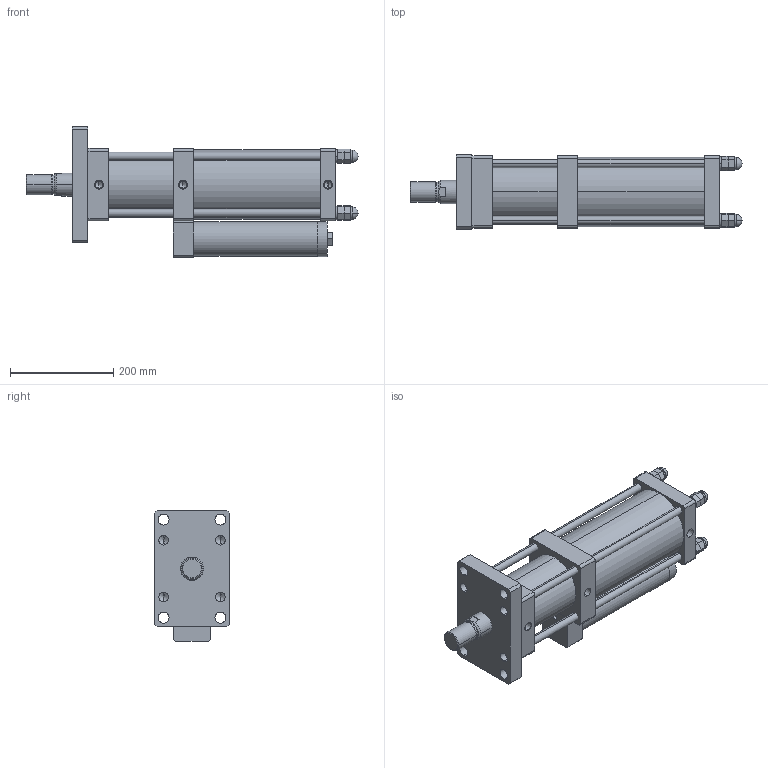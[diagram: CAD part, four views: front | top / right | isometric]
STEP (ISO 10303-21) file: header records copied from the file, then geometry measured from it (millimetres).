
FILE_DESCRIPTION (( 'STEP AP203' ), '1' );
FILE_NAME ('MPTC-100-10-13T.STEP', '2016-03-29T06:56:59', ( 'WIN' ), ( '' ), 'SwSTEP 2.0', 'SolidWorks 2014', '' );
FILE_SCHEMA (( 'CONFIG_CONTROL_DESIGN' ));
Length unit declared in the file: millimetre
Products named in the file (1): MPTC-100-10-13T
Bounding box: 643 x 145 x 253.5 mm (x, y, z)
Volume: 8667941 mm3; surface area: 668553.9 mm2
Topology: 13 solids, 13 shells, 399 faces, 980 edges, 555 vertices
Faces by surface type: plane 187, cylinder 80, torus 48, bspline 48, cone 36
Entity records: 12745 total; most frequent: CARTESIAN_POINT 3687, DIRECTION 1934, ORIENTED_EDGE 1812, EDGE_CURVE 906, AXIS2_PLACEMENT_3D 726, VERTEX_POINT 555, LINE 482, VECTOR 482
